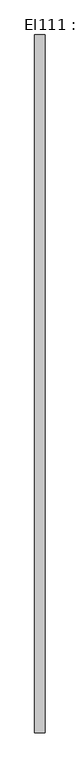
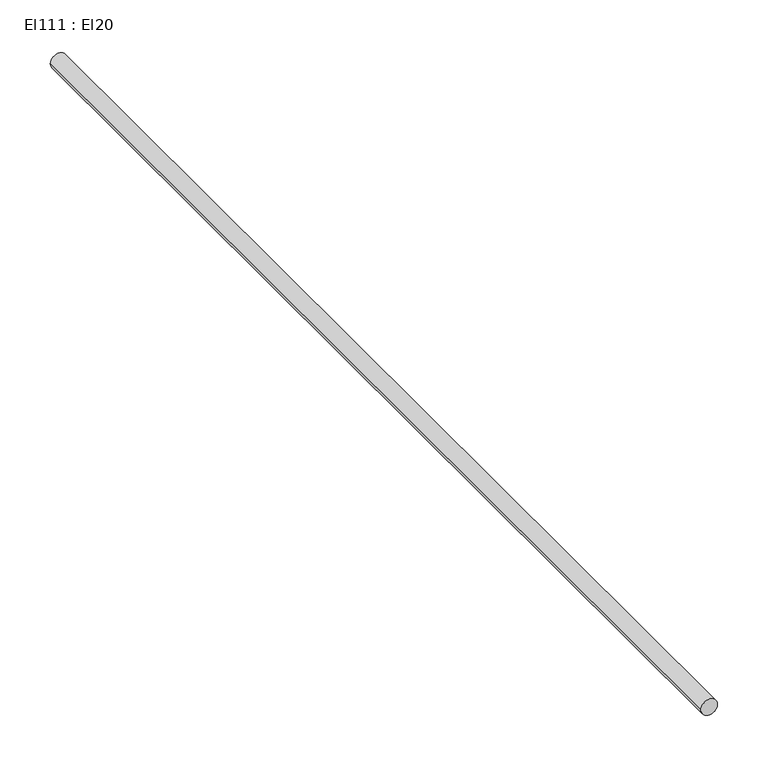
"""IFC4 building model written with IfcOpenShell, lengths in millimetres: cable carrier segment geometry, El111 : El20."""

from ifc_helpers import new_model, si_unit, point, frame, frame_2d, origin, place, context, project, spatial, circle_curve, trimmed, segment, composite_curve, outline, extrude, source, transform, mapped, element, save


def el111_el20_c0aca6a8(model_context):
    return source(origin(), model_context, "Body", "SweptSolid", [
        extrude(outline(composite_curve([segment(trimmed(circle_curve(frame_2d((1800.0, 114.4746511)), 9.5), [point((1800.0, 104.9746511))], [point((1800.0, 123.9746511))], False, "CARTESIAN"), True, "CONTINUOUS"), segment(trimmed(circle_curve(frame_2d((1800.0, 114.4746511)), 9.5), [point((1800.0, 123.9746511))], [point((1800.0, 104.9746511))], False, "CARTESIAN"), True, "CONTINUOUS")], self_intersect=False)), frame((0.0, 7876.7211745, 0.0), z_axis=(0.0, 1.0, 0.0), x_axis=(0.0, 0.0, 1.0)), (0.0, 0.0, 1.0), 1290.98),
    ])


if __name__ == "__main__":
    model = new_model("IFC4")
    model_context = context("Model", 3, world=origin())
    ifc_project = project(units=[si_unit("LENGTHUNIT", "METRE", prefix="MILLI")], contexts=[model_context])
    site = spatial("IfcSite", under=ifc_project)
    building = spatial("IfcBuilding", under=site)
    placement = place(None, origin())
    el111_el20_shape = el111_el20_c0aca6a8(model_context)
    element("IfcCableCarrierSegment", 1, ObjectType="El111 : El20", at=placement, inside=building, context=model_context, shape_type="MappedRepresentation", body=[
        mapped(el111_el20_shape, transform((0.0, 0.0, 0.0), x_axis=(1.0, 0.0, 0.0), y_axis=(0.0, 1.0, 0.0), z_axis=(0.0, 0.0, 1.0))),
    ])
    save(model, "model.ifc")
